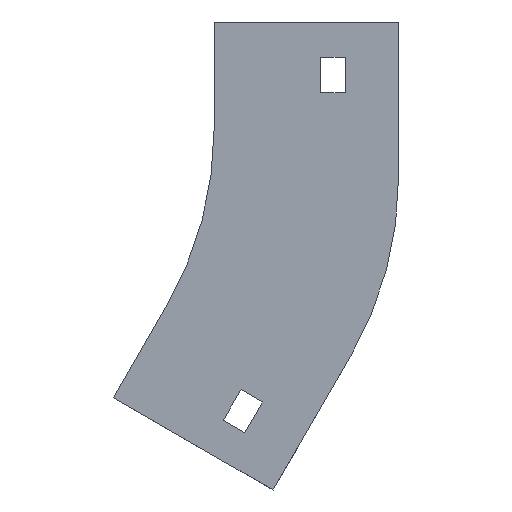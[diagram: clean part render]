
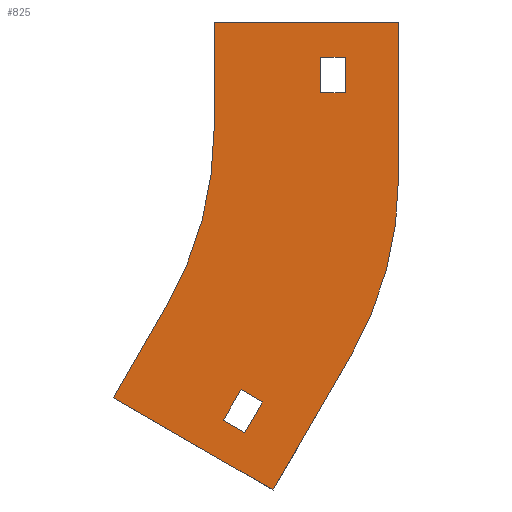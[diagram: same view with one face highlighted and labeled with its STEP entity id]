
A CAD part, left-side view. The second image highlights one B-rep face of the part: STEP entity #825.
In plain terms, the highlighted planar face has unit normal (-1, 0, 0).
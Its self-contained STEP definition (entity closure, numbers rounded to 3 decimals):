
#6 = LINE ( 'NONE', #303, #20 ) ;
#14 = ORIENTED_EDGE ( 'NONE', *, *, #1173, .F. ) ;
#18 = CARTESIAN_POINT ( 'NONE',  ( -39.5, -38.603, -93.933 ) ) ;
#20 = VECTOR ( 'NONE', #324, 1000. ) ;
#46 = CIRCLE ( 'NONE', #1155, 100. ) ;
#50 = VECTOR ( 'NONE', #1219, 1000. ) ;
#64 = LINE ( 'NONE', #709, #994 ) ;
#85 = VERTEX_POINT ( 'NONE', #1335 ) ;
#89 = DIRECTION ( 'NONE',  ( 0., 0.5, -0.866 ) ) ;
#108 = EDGE_LOOP ( 'NONE', ( #367, #191, #225, #411 ) ) ;
#117 = VECTOR ( 'NONE', #158, 1000. ) ;
#128 = CARTESIAN_POINT ( 'NONE',  ( -39.5, -7.583, -103.66 ) ) ;
#137 = AXIS2_PLACEMENT_3D ( 'NONE', #1142, #500, #518 ) ;
#143 = EDGE_CURVE ( 'NONE', #735, #898, #1011, .T. ) ;
#158 = DIRECTION ( 'NONE',  ( 0., -0.866, -0.5 ) ) ;
#179 = VERTEX_POINT ( 'NONE', #1251 ) ;
#188 = PLANE ( 'NONE',  #137 ) ;
#191 = ORIENTED_EDGE ( 'NONE', *, *, #392, .T. ) ;
#200 = FACE_OUTER_BOUND ( 'NONE', #1153, .T. ) ;
#209 = LINE ( 'NONE', #316, #1016 ) ;
#217 = CARTESIAN_POINT ( 'NONE',  ( -39.5, -16.636, -131.981 ) ) ;
#221 = CARTESIAN_POINT ( 'NONE',  ( -39.5, 0., -30. ) ) ;
#222 = VECTOR ( 'NONE', #786, 1000. ) ;
#225 = ORIENTED_EDGE ( 'NONE', *, *, #524, .T. ) ;
#226 = VECTOR ( 'NONE', #1128, 1000. ) ;
#250 = CARTESIAN_POINT ( 'NONE',  ( -39.5, -37., -10. ) ) ;
#281 = LINE ( 'NONE', #395, #1131 ) ;
#287 = VERTEX_POINT ( 'NONE', #597 ) ;
#291 = DIRECTION ( 'NONE',  ( 0., -1., 0. ) ) ;
#296 = DIRECTION ( 'NONE',  ( 0., -1., 0. ) ) ;
#303 = CARTESIAN_POINT ( 'NONE',  ( -39.5, -8.645, -115.821 ) ) ;
#304 = LINE ( 'NONE', #217, #502 ) ;
#316 = CARTESIAN_POINT ( 'NONE',  ( -39.5, -7.583, -103.66 ) ) ;
#324 = DIRECTION ( 'NONE',  ( 0., -0.5, 0.866 ) ) ;
#331 = VECTOR ( 'NONE', #1169, 1000. ) ;
#356 = LINE ( 'NONE', #789, #226 ) ;
#363 = VERTEX_POINT ( 'NONE', #1171 ) ;
#365 = CARTESIAN_POINT ( 'NONE',  ( -39.5, -52., 0. ) ) ;
#367 = ORIENTED_EDGE ( 'NONE', *, *, #946, .T. ) ;
#368 = CARTESIAN_POINT ( 'NONE',  ( -39.5, 0., 0. ) ) ;
#378 = EDGE_CURVE ( 'NONE', #936, #1394, #304, .T. ) ;
#392 = EDGE_CURVE ( 'NONE', #85, #363, #640, .T. ) ;
#395 = CARTESIAN_POINT ( 'NONE',  ( -39.5, -52., 0. ) ) ;
#411 = ORIENTED_EDGE ( 'NONE', *, *, #143, .T. ) ;
#429 = CARTESIAN_POINT ( 'NONE',  ( -39.5, -30., -10. ) ) ;
#431 = VERTEX_POINT ( 'NONE', #630 ) ;
#453 = CARTESIAN_POINT ( 'NONE',  ( -39.5, 13.397, -80. ) ) ;
#455 = VERTEX_POINT ( 'NONE', #521 ) ;
#495 = CIRCLE ( 'NONE', #1292, 100. ) ;
#500 = DIRECTION ( 'NONE',  ( 1., 0., 0. ) ) ;
#502 = VECTOR ( 'NONE', #89, 1000. ) ;
#517 = DIRECTION ( 'NONE',  ( 0., 0., 1. ) ) ;
#518 = DIRECTION ( 'NONE',  ( 0., 0., -1. ) ) ;
#519 = VERTEX_POINT ( 'NONE', #128 ) ;
#521 = CARTESIAN_POINT ( 'NONE',  ( -39.5, -8.645, -115.821 ) ) ;
#524 = EDGE_CURVE ( 'NONE', #363, #735, #1228, .T. ) ;
#551 = ORIENTED_EDGE ( 'NONE', *, *, #952, .F. ) ;
#580 = VECTOR ( 'NONE', #689, 1000. ) ;
#594 = EDGE_CURVE ( 'NONE', #681, #601, #878, .T. ) ;
#597 = CARTESIAN_POINT ( 'NONE',  ( -39.5, -52., -43.933 ) ) ;
#601 = VERTEX_POINT ( 'NONE', #1003 ) ;
#615 = EDGE_CURVE ( 'NONE', #1394, #681, #356, .T. ) ;
#630 = CARTESIAN_POINT ( 'NONE',  ( -39.5, -13.645, -107.16 ) ) ;
#640 = LINE ( 'NONE', #429, #1299 ) ;
#642 = ORIENTED_EDGE ( 'NONE', *, *, #797, .F. ) ;
#665 = EDGE_CURVE ( 'NONE', #179, #455, #1357, .T. ) ;
#681 = VERTEX_POINT ( 'NONE', #1342 ) ;
#687 = VERTEX_POINT ( 'NONE', #365 ) ;
#689 = DIRECTION ( 'NONE',  ( 0., 1., 0. ) ) ;
#704 = FACE_BOUND ( 'NONE', #1253, .T. ) ;
#709 = CARTESIAN_POINT ( 'NONE',  ( -39.5, 0., 0. ) ) ;
#714 = ORIENTED_EDGE ( 'NONE', *, *, #594, .F. ) ;
#718 = CARTESIAN_POINT ( 'NONE',  ( -39.5, -2.583, -112.321 ) ) ;
#722 = DIRECTION ( 'NONE',  ( 0., 0., -1. ) ) ;
#726 = CARTESIAN_POINT ( 'NONE',  ( -39.5, -52., -43.933 ) ) ;
#730 = CARTESIAN_POINT ( 'NONE',  ( -39.5, -37., -20. ) ) ;
#731 = DIRECTION ( 'NONE',  ( 0., 0., 1. ) ) ;
#735 = VERTEX_POINT ( 'NONE', #730 ) ;
#737 = CARTESIAN_POINT ( 'NONE',  ( -39.5, -16.636, -131.981 ) ) ;
#757 = CARTESIAN_POINT ( 'NONE',  ( -39.5, -30., -20. ) ) ;
#762 = VECTOR ( 'NONE', #981, 1000. ) ;
#763 = DIRECTION ( 'NONE',  ( 0., 0.866, 0.5 ) ) ;
#765 = ORIENTED_EDGE ( 'NONE', *, *, #1216, .F. ) ;
#784 = EDGE_CURVE ( 'NONE', #687, #287, #1033, .T. ) ;
#786 = DIRECTION ( 'NONE',  ( 0., 0.5, -0.866 ) ) ;
#789 = CARTESIAN_POINT ( 'NONE',  ( -39.5, 28.397, -105.981 ) ) ;
#797 = EDGE_CURVE ( 'NONE', #1017, #1122, #64, .T. ) ;
#824 = EDGE_CURVE ( 'NONE', #1122, #687, #281, .T. ) ;
#825 = ADVANCED_FACE ( 'NONE', ( #200, #1156, #704 ), #188, .F. ) ;
#872 = ORIENTED_EDGE ( 'NONE', *, *, #615, .F. ) ;
#878 = LINE ( 'NONE', #453, #50 ) ;
#898 = VERTEX_POINT ( 'NONE', #757 ) ;
#919 = DIRECTION ( 'NONE',  ( -1., 0., 0. ) ) ;
#936 = VERTEX_POINT ( 'NONE', #18 ) ;
#946 = EDGE_CURVE ( 'NONE', #898, #85, #965, .T. ) ;
#952 = EDGE_CURVE ( 'NONE', #455, #431, #6, .T. ) ;
#965 = LINE ( 'NONE', #1073, #762 ) ;
#981 = DIRECTION ( 'NONE',  ( 0., 0., 1. ) ) ;
#992 = CARTESIAN_POINT ( 'NONE',  ( -39.5, -30., -20. ) ) ;
#994 = VECTOR ( 'NONE', #731, 1000. ) ;
#1003 = CARTESIAN_POINT ( 'NONE',  ( -39.5, 13.397, -80. ) ) ;
#1011 = LINE ( 'NONE', #992, #580 ) ;
#1015 = CARTESIAN_POINT ( 'NONE',  ( -39.5, -2.583, -112.321 ) ) ;
#1016 = VECTOR ( 'NONE', #763, 1000. ) ;
#1017 = VERTEX_POINT ( 'NONE', #221 ) ;
#1033 = LINE ( 'NONE', #726, #331 ) ;
#1073 = CARTESIAN_POINT ( 'NONE',  ( -39.5, -30., -10. ) ) ;
#1094 = CARTESIAN_POINT ( 'NONE',  ( -39.5, 48., -43.933 ) ) ;
#1122 = VERTEX_POINT ( 'NONE', #368 ) ;
#1128 = DIRECTION ( 'NONE',  ( 0., 0.866, 0.5 ) ) ;
#1131 = VECTOR ( 'NONE', #296, 1000. ) ;
#1132 = LINE ( 'NONE', #1015, #222 ) ;
#1142 = CARTESIAN_POINT ( 'NONE',  ( -39.5, 100., -30. ) ) ;
#1153 = EDGE_LOOP ( 'NONE', ( #1158, #642, #765, #714, #872, #1329, #1201, #1227 ) ) ;
#1155 = AXIS2_PLACEMENT_3D ( 'NONE', #1160, #919, #722 ) ;
#1156 = FACE_BOUND ( 'NONE', #108, .T. ) ;
#1158 = ORIENTED_EDGE ( 'NONE', *, *, #824, .F. ) ;
#1160 = CARTESIAN_POINT ( 'NONE',  ( -39.5, 100., -30. ) ) ;
#1169 = DIRECTION ( 'NONE',  ( 0., 0., -1. ) ) ;
#1171 = CARTESIAN_POINT ( 'NONE',  ( -39.5, -37., -10. ) ) ;
#1173 = EDGE_CURVE ( 'NONE', #519, #179, #1132, .T. ) ;
#1201 = ORIENTED_EDGE ( 'NONE', *, *, #1400, .F. ) ;
#1206 = DIRECTION ( 'NONE',  ( 0., 0., -1. ) ) ;
#1216 = EDGE_CURVE ( 'NONE', #601, #1017, #46, .T. ) ;
#1219 = DIRECTION ( 'NONE',  ( 0., -0.5, 0.866 ) ) ;
#1227 = ORIENTED_EDGE ( 'NONE', *, *, #784, .F. ) ;
#1228 = LINE ( 'NONE', #250, #1341 ) ;
#1244 = ORIENTED_EDGE ( 'NONE', *, *, #1351, .F. ) ;
#1251 = CARTESIAN_POINT ( 'NONE',  ( -39.5, -2.583, -112.321 ) ) ;
#1253 = EDGE_LOOP ( 'NONE', ( #1291, #14, #1244, #551 ) ) ;
#1291 = ORIENTED_EDGE ( 'NONE', *, *, #665, .F. ) ;
#1292 = AXIS2_PLACEMENT_3D ( 'NONE', #1094, #1404, #517 ) ;
#1299 = VECTOR ( 'NONE', #291, 1000. ) ;
#1329 = ORIENTED_EDGE ( 'NONE', *, *, #378, .F. ) ;
#1335 = CARTESIAN_POINT ( 'NONE',  ( -39.5, -30., -10. ) ) ;
#1341 = VECTOR ( 'NONE', #1206, 1000. ) ;
#1342 = CARTESIAN_POINT ( 'NONE',  ( -39.5, 28.397, -105.981 ) ) ;
#1351 = EDGE_CURVE ( 'NONE', #431, #519, #209, .T. ) ;
#1357 = LINE ( 'NONE', #718, #117 ) ;
#1394 = VERTEX_POINT ( 'NONE', #737 ) ;
#1400 = EDGE_CURVE ( 'NONE', #287, #936, #495, .T. ) ;
#1404 = DIRECTION ( 'NONE',  ( 1., 0., 0. ) ) ;
